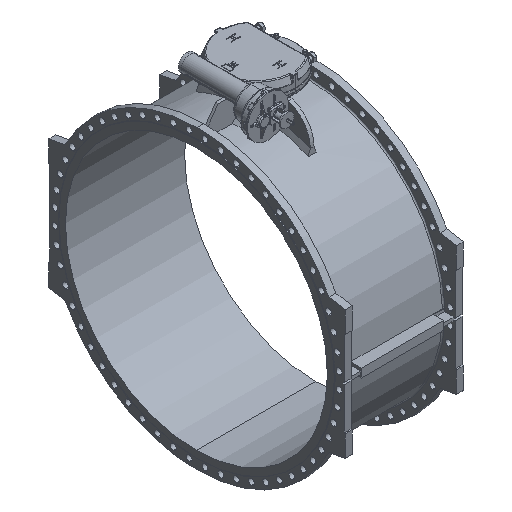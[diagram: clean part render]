
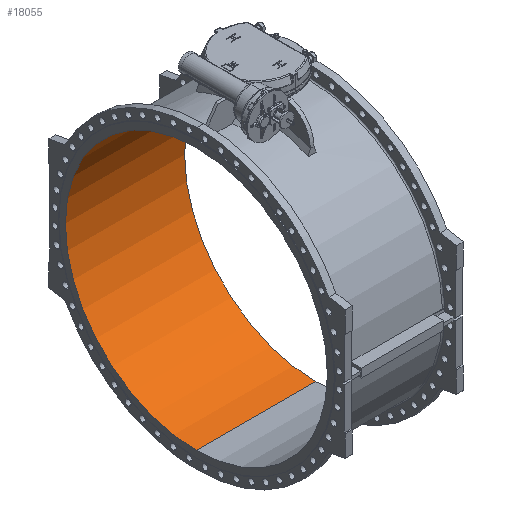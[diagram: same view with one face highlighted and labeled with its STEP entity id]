
A CAD part, isometric view. The second image highlights one B-rep face of the part: STEP entity #18055.
In plain terms, the highlighted cylindrical face has radius 1220 mm (diameter 2440 mm), a partial arc.
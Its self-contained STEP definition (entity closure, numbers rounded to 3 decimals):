
#1305 = AXIS2_PLACEMENT_3D ( 'NONE', #28803, #32517, #44886 ) ;
#1715 = ORIENTED_EDGE ( 'NONE', *, *, #5207, .F. ) ;
#2930 = VERTEX_POINT ( 'NONE', #5355 ) ;
#3477 = EDGE_CURVE ( 'Defeatured_0_1029+Defeatured_0_30+Defeatured_0_30+Defeatured_0_30', #2930, #39127, #31584, .T. ) ;
#5207 = EDGE_CURVE ( 'NONE', #50005, #39127, #34259, .T. ) ;
#5355 = CARTESIAN_POINT ( 'NONE',  ( -555., 0., 1220. ) ) ;
#10115 = DIRECTION ( 'NONE',  ( -1., 0., 0. ) ) ;
#10743 = CARTESIAN_POINT ( 'NONE',  ( 555., 0., -1220. ) ) ;
#13853 = CIRCLE ( 'NONE', #43297, 1220. ) ;
#14845 = EDGE_CURVE ( 'NONE', #44498, #2930, #23289, .T. ) ;
#15898 = DIRECTION ( 'NONE',  ( -1., 0., 0. ) ) ;
#16430 = DIRECTION ( 'NONE',  ( 0., 0., 1. ) ) ;
#18055 = ADVANCED_FACE ( 'Defeatured_0_1029', ( #46415 ), #30588, .F. ) ;
#20085 = EDGE_LOOP ( 'NONE', ( #1715, #20605, #27456, #47975 ) ) ;
#20605 = ORIENTED_EDGE ( 'NONE', *, *, #48925, .F. ) ;
#21929 = CARTESIAN_POINT ( 'NONE',  ( 555., 0., 1220. ) ) ;
#22712 = DIRECTION ( 'NONE',  ( 0., 0., 1. ) ) ;
#23289 = LINE ( 'NONE', #35128, #50306 ) ;
#26988 = VECTOR ( 'NONE', #30290, 1000. ) ;
#27456 = ORIENTED_EDGE ( 'NONE', *, *, #14845, .T. ) ;
#28803 = CARTESIAN_POINT ( 'NONE',  ( -555., 0., 0. ) ) ;
#30290 = DIRECTION ( 'NONE',  ( -1., 0., 0. ) ) ;
#30296 = AXIS2_PLACEMENT_3D ( 'NONE', #35078, #30331, #22712 ) ;
#30331 = DIRECTION ( 'NONE',  ( -1., 0., 0. ) ) ;
#30588 = CYLINDRICAL_SURFACE ( 'NONE', #30296, 1220. ) ;
#31584 = CIRCLE ( 'NONE', #1305, 1220. ) ;
#32213 = CARTESIAN_POINT ( 'NONE',  ( -555., 0., -1220. ) ) ;
#32517 = DIRECTION ( 'NONE',  ( -1., 0., 0. ) ) ;
#34259 = LINE ( 'NONE', #34767, #26988 ) ;
#34767 = CARTESIAN_POINT ( 'NONE',  ( 0., 0., -1220. ) ) ;
#35078 = CARTESIAN_POINT ( 'NONE',  ( 0., 0., 0. ) ) ;
#35128 = CARTESIAN_POINT ( 'NONE',  ( 0., 0., 1220. ) ) ;
#39127 = VERTEX_POINT ( 'NONE', #32213 ) ;
#43297 = AXIS2_PLACEMENT_3D ( 'NONE', #48009, #15898, #16430 ) ;
#44498 = VERTEX_POINT ( 'NONE', #21929 ) ;
#44886 = DIRECTION ( 'NONE',  ( 0., 0., 1. ) ) ;
#46415 = FACE_OUTER_BOUND ( 'NONE', #20085, .T. ) ;
#47975 = ORIENTED_EDGE ( 'NONE', *, *, #3477, .T. ) ;
#48009 = CARTESIAN_POINT ( 'NONE',  ( 555., 0., 0. ) ) ;
#48925 = EDGE_CURVE ( 'Defeatured_0_72+Defeatured_0_1029+Defeatured_0_1029+Defeatured_0_1029', #44498, #50005, #13853, .T. ) ;
#50005 = VERTEX_POINT ( 'NONE', #10743 ) ;
#50306 = VECTOR ( 'NONE', #10115, 1000. ) ;
